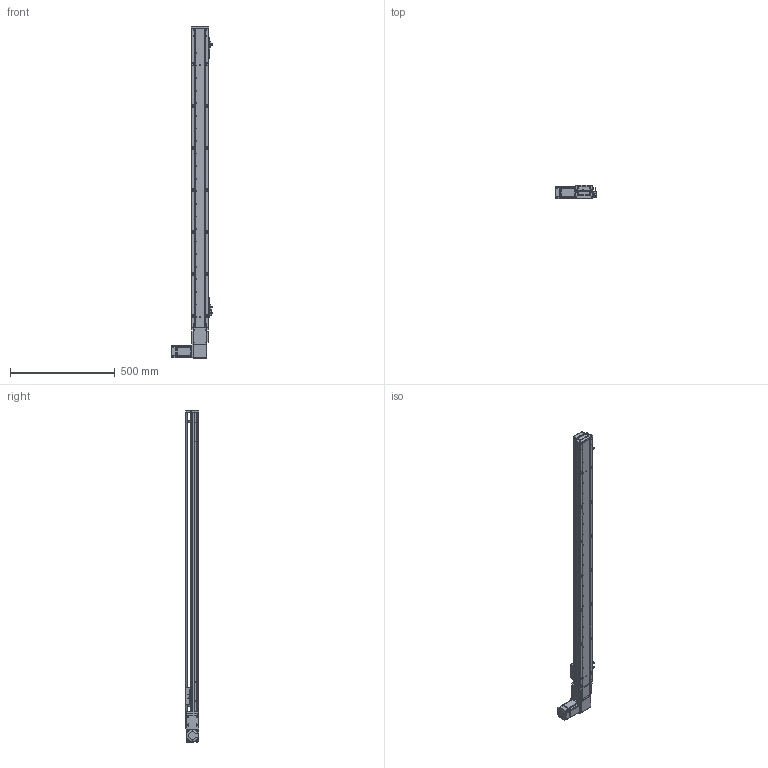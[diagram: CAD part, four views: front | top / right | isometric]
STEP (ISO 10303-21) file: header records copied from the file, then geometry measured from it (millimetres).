
FILE_DESCRIPTION (( 'STEP AP203' ), '1' );
FILE_NAME ('RY80-T-300-LK.SLDASM_1250.step', '2021-03-01T01:59:17', ( '盈信电脑' ), ( '东莞市道滘镇水果街19号' ), 'SwSTEP 2.0', 'SolidWorks 2012', '' );
FILE_SCHEMA (( 'CONFIG_CONTROL_DESIGN' ));
Products named in the file (19): RY80-T-M4蹟翐; RY80-T萇儂假蚾啣; RY80-T-300-LK.SLDASM_1250; 1; RY80-T肮祭謫俋欶; 滅袉蝶18-10; 侂狟200W萇儂; RY80-T翋肮祭謫裔啣; RY80-T粣創揤踡輸; RY80-T肮祭湍揤輸1; RY80-T肮祭湍揤輸2; 672嫖萇羲壽假蚾釱; 覜茼ん672; RY80-T-翋肮祭謫釱; RY80俋离覜茼え; RY80-T肮祭謫臏賑輸; RY80-T綴裔啣; RY80-T-300-LK倰第奻裔啣_1250; RY80-T-300-LK倰第菁釱_1250
Assembly tree (24 placements, depth 3):
  RY80-T-300-LK.SLDASM_1250
    RY80-T-300-LK倰第菁釱_1250
    RY80-T肮祭謫臏賑輸
    RY80-T-300-LK倰第奻裔啣_1250
    RY80-T綴裔啣
    672嫖萇羲壽假蚾釱  x2
    覜茼ん672  x3
    RY80俋离覜茼え
    RY80-T-翋肮祭謫釱
    RY80-T肮祭湍揤輸1
    RY80-T肮祭湍揤輸2
    RY80-T粣創揤踡輸
    RY80-T翋肮祭謫裔啣  x2
    滅袉蝶18-10  x2
    侂狟200W萇儂
      1
    RY80-T肮祭謫俋欶
    RY80-T萇儂假蚾啣
    RY80-T-M4蹟翐  x2
Bounding box: 198.7 x 65 x 1585 mm (x, y, z)
Volume: 2504525.7 mm3; surface area: 1052775 mm2
Topology: 23 solids, 23 shells, 2466 faces, 6808 edges, 4423 vertices
Faces by surface type: plane 1317, cylinder 944, cone 149, bspline 56
Entity records: 77561 total; most frequent: CARTESIAN_POINT 18813, ORIENTED_EDGE 12060, DIRECTION 11344, EDGE_CURVE 6030, VERTEX_POINT 3964, AXIS2_PLACEMENT_3D 3819, LINE 3706, VECTOR 3706
